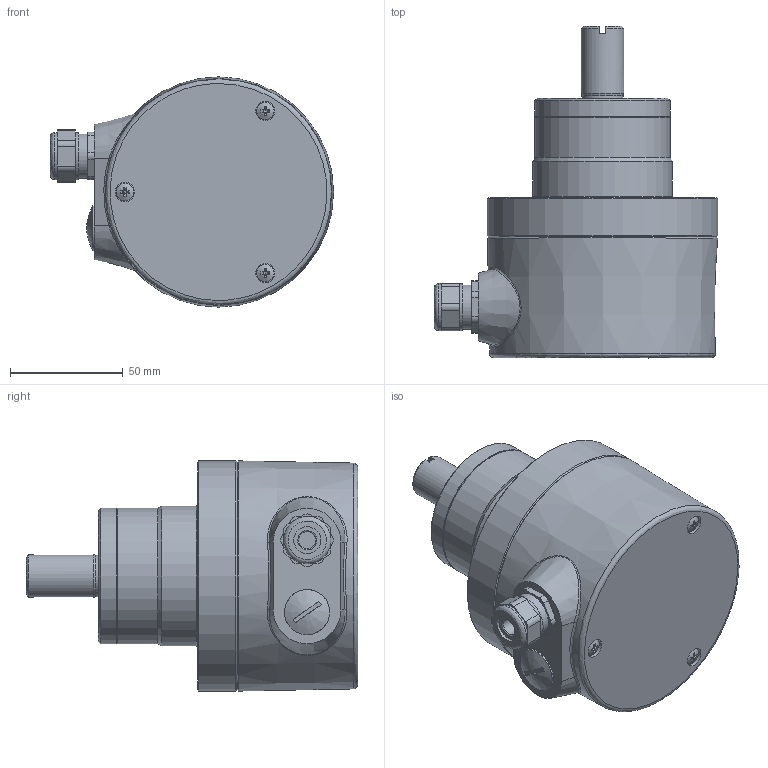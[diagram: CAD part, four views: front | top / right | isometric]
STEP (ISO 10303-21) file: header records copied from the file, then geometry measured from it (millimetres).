
FILE_DESCRIPTION (( 'STEP AP214' ), '1' );
FILE_NAME ('WT707.STEP', '2016-05-12T08:08:38', ( 'inst' ), ( '' ), 'SwSTEP 2.0', 'SolidWorks 2016', '' );
FILE_SCHEMA (( 'AUTOMOTIVE_DESIGN' ));
Length unit declared in the file: millimetre
Products named in the file (1): WT707
Bounding box: 125.5 x 147.02 x 102 mm (x, y, z)
Volume: 733110.7 mm3; surface area: 55291.5 mm2
Topology: 7 solids, 7 shells, 241 faces, 553 edges, 343 vertices
Faces by surface type: plane 144, cylinder 42, cone 36, bspline 19
Full cylindrical faces by diameter (mm): 2.5 x1, 5 x3, 7 x3, 7.5 x1, 8 x6, 8.5 x3, 12 x1, 18.4 x1, 19 x1, 19.6 x1, 20 x1, 21 x2, 29.5 x1, 59.707 x1, 60 x2, 62 x1, 102 x1
Entity records: 10924 total; most frequent: CARTESIAN_POINT 4108, DIRECTION 1022, ORIENTED_EDGE 930, EDGE_CURVE 465, AXIS2_PLACEMENT_3D 406, EDGE_LOOP 318, VERTEX_POINT 315, FACE_OUTER_BOUND 283
